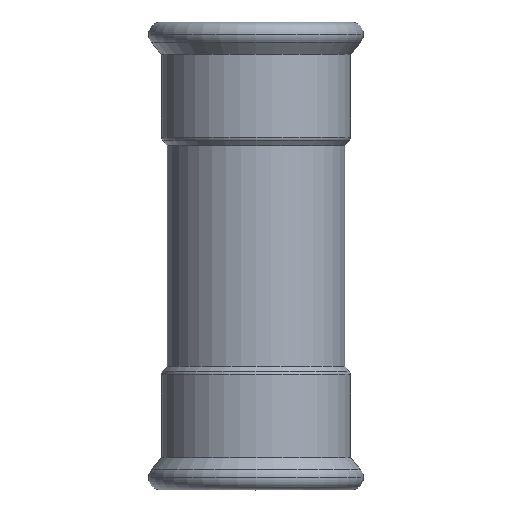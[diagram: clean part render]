
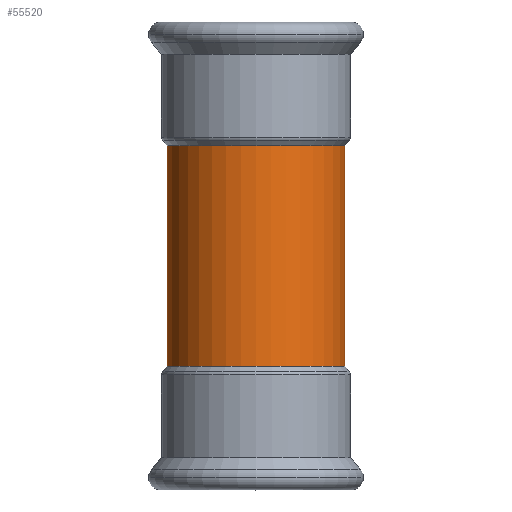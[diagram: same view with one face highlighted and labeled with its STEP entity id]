
A CAD part, top view. The second image highlights one B-rep face of the part: STEP entity #55520.
In plain terms, the highlighted cylindrical face has radius 27 mm (diameter 54 mm), a partial arc.
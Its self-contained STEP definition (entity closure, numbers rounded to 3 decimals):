
#770=CARTESIAN_POINT('',(-50.154,162.631,
33.5));
#780=DIRECTION('',(0.,0.,1.));
#790=DIRECTION('',(-1.,0.,0.));
#800=AXIS2_PLACEMENT_3D('',#770,#780,#790);
#810=CYLINDRICAL_SURFACE('',#800,27.);
#24000=CARTESIAN_POINT('',(-23.154,162.631,
33.5));
#24010=DIRECTION('',(0.,0.,1.));
#24020=VECTOR('',#24010,1.);
#24030=LINE('',#24000,#24020);
#24040=CARTESIAN_POINT('',(-23.154,162.631,
-33.5));
#24050=VERTEX_POINT('',#24040);
#24060=CARTESIAN_POINT('',(-23.154,162.631,
33.5));
#24070=VERTEX_POINT('',#24060);
#24080=EDGE_CURVE('',#24050,#24070,#24030,.T.);
#24100=CARTESIAN_POINT('',(-50.154,162.631,
33.5));
#24110=DIRECTION('',(0.,0.,1.));
#24120=DIRECTION('',(1.,0.,0.));
#24130=AXIS2_PLACEMENT_3D('',#24100,#24110,#24120);
#24140=CIRCLE('',#24130,27.);
#24150=CARTESIAN_POINT('',(-77.154,162.631,
33.5));
#24160=VERTEX_POINT('',#24150);
#24190=CARTESIAN_POINT('',(-77.154,162.631,
33.5));
#24200=DIRECTION('',(0.,0.,1.));
#24210=VECTOR('',#24200,1.);
#24220=LINE('',#24190,#24210);
#24230=CARTESIAN_POINT('',(-77.154,162.631,
-33.5));
#24240=VERTEX_POINT('',#24230);
#24250=EDGE_CURVE('',#24240,#24160,#24220,.T.);
#24270=CARTESIAN_POINT('',(-50.154,162.631,
-33.5));
#24280=DIRECTION('',(0.,0.,1.));
#24290=DIRECTION('',(-1.,0.,0.));
#24300=AXIS2_PLACEMENT_3D('',#24270,#24280,#24290);
#24310=CIRCLE('',#24300,27.);
#55210=EDGE_CURVE('',#24240,#24050,#24310,.T.);
#55300=EDGE_CURVE('',#24160,#24070,#24140,.T.);
#55460=ORIENTED_EDGE('',*,*,#55210,.T.);
#55470=ORIENTED_EDGE('',*,*,#24250,.F.);
#55480=ORIENTED_EDGE('',*,*,#55300,.F.);
#55490=ORIENTED_EDGE('',*,*,#24080,.T.);
#55500=EDGE_LOOP('',(#55490,#55480,#55470,#55460));
#55510=FACE_OUTER_BOUND('',#55500,.T.);
#55520=ADVANCED_FACE('',(#55510),#810,.T.);
